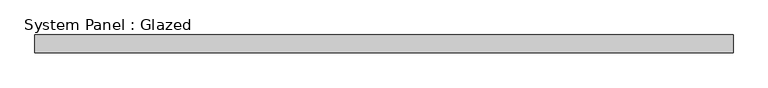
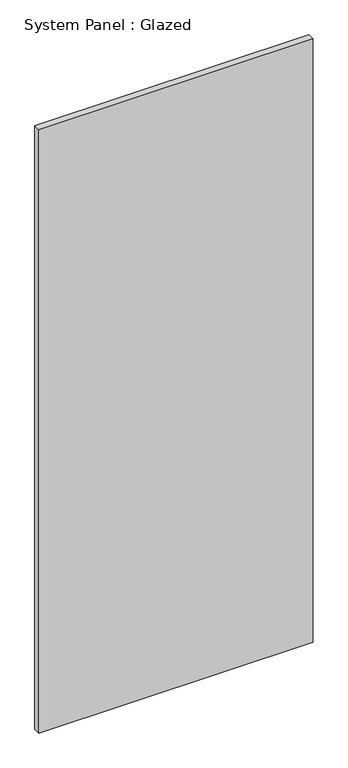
"""IFC4 building model written with IfcOpenShell, lengths in millimetres: plate geometry, System Panel : Glazed."""

from ifc_helpers import new_model, si_unit, origin, origin_with_axes, place, context, project, spatial, polyline, outline, extrude, source, transform, mapped, element, save


def system_panel_glazed_4128b32b(model_context):
    return source(origin(), model_context, "Body", "SweptSolid", [
        extrude(outline(polyline([(503.9089253, -44.45), (-503.9089253, -44.45), (-503.9089253, -19.05), (503.9089253, -19.05), (503.9089253, -44.45)])), origin_with_axes(), (0.0, 0.0, 1.0), 2343.15),
    ])


if __name__ == "__main__":
    model = new_model("IFC4")
    model_context = context("Model", 3, world=origin())
    ifc_project = project(units=[si_unit("LENGTHUNIT", "METRE", prefix="MILLI")], contexts=[model_context])
    site = spatial("IfcSite", under=ifc_project)
    building = spatial("IfcBuilding", under=site)
    placement = place(None, origin())
    system_panel_glazed_shape = system_panel_glazed_4128b32b(model_context)
    element("IfcPlate", 1, ObjectType="System Panel : Glazed", at=placement, inside=building, context=model_context, shape_type="MappedRepresentation", body=[
        mapped(system_panel_glazed_shape, transform((0.0, 0.0, 0.0), x_axis=(1.0, 0.0, 0.0), y_axis=(0.0, 1.0, 0.0), z_axis=(0.0, 0.0, 1.0))),
    ])
    save(model, "model.ifc")
